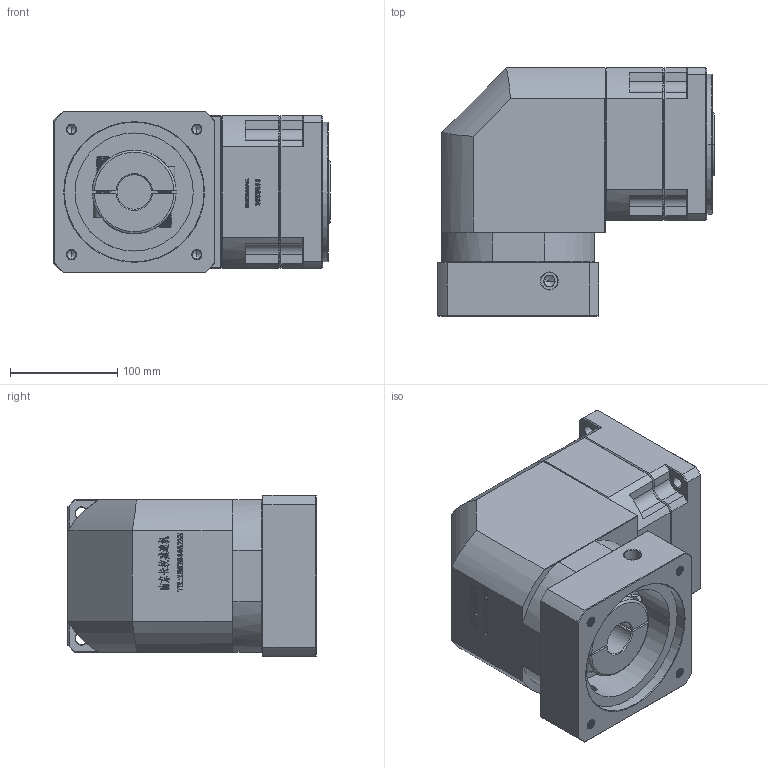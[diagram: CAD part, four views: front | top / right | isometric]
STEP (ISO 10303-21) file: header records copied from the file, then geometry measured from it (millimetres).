
FILE_DESCRIPTION (( 'STEP AP214' ), '1' );
FILE_NAME ('ZBR142A-K35-L1-32-130-165-M10.step', '2023-03-18T09:25:36', ( '' ), ( '' ), 'SwSTEP 2.0', 'SolidWorks 2016', '' );
FILE_SCHEMA (( 'AUTOMOTIVE_DESIGN' ));
Length unit declared in the file: millimetre
Products named in the file (1): ZBR142A-K35-L1-32-130-165-M10
Bounding box: 257.7 x 231 x 150 mm (x, y, z)
Volume: 5350089.2 mm3; surface area: 394944.5 mm2
Topology: 6 solids, 6 shells, 2855 faces, 7573 edges, 4866 vertices
Faces by surface type: plane 1533, bspline 576, cylinder 387, cone 326, torus 33
Entity records: 157383 total; most frequent: CARTESIAN_POINT 59573, ORIENTED_EDGE 15090, DIRECTION 11452, EDGE_CURVE 7545, LINE 5160, VECTOR 5160, VERTEX_POINT 4866, AXIS2_PLACEMENT_3D 3146
